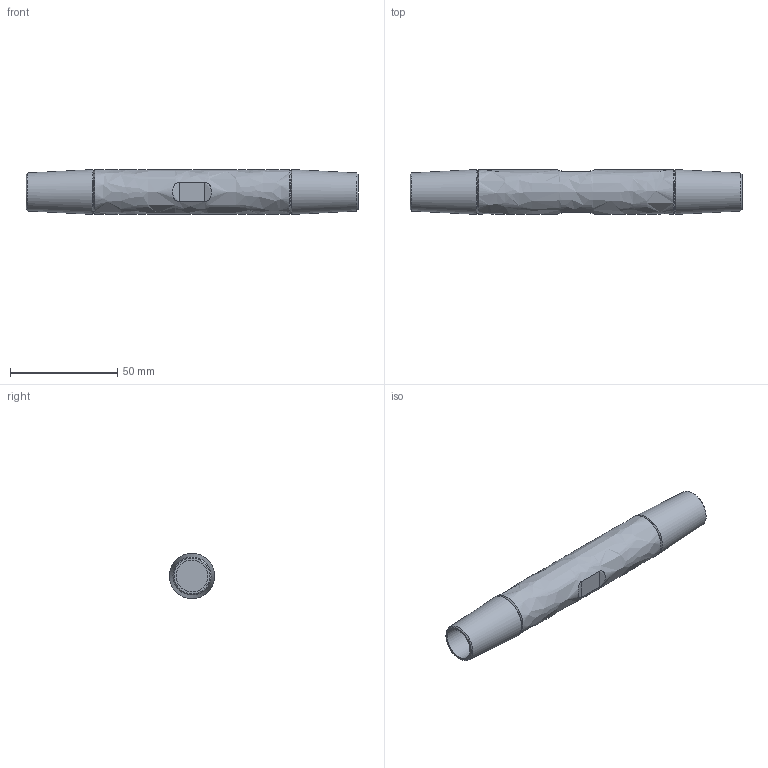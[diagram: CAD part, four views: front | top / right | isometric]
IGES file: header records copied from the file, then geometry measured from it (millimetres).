
Global section: file name: 520-014-MUF; native system: Autodesk Inventor 2016; preprocessor: unknown; author: Administrator; date: 20200630.131100; units: centimetre
Bounding box: 155 x 21 x 21 mm (x, y, z)
Volume: 41783.5 mm3; surface area: 12691.1 mm2
Topology: 1 solids, 1 shells, 21 faces, 54 edges, 38 vertices
Faces by surface type: bspline 21
